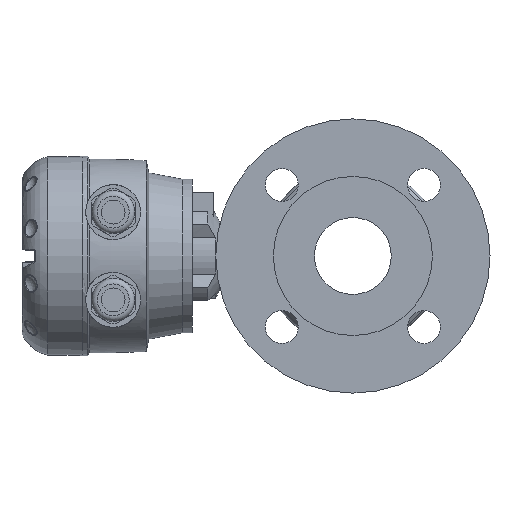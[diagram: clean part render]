
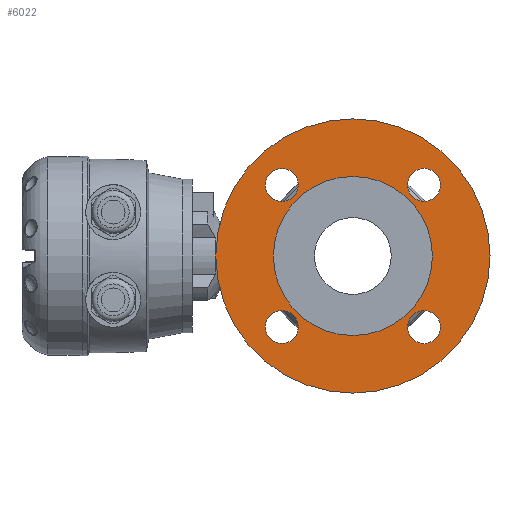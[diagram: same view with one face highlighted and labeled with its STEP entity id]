
A CAD part, left-side view. The second image highlights one B-rep face of the part: STEP entity #6022.
In plain terms, the highlighted planar face has unit normal (-1, 0, 0).
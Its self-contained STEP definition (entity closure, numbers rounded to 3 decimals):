
#455 = EDGE_CURVE ( 'NONE', #16095, #16095, #2376, .T. ) ;
#825 = AXIS2_PLACEMENT_3D ( 'NONE', #6952, #6954, #6955 ) ;
#887 = AXIS2_PLACEMENT_3D ( 'NONE', #13318, #13328, #13329 ) ;
#902 = AXIS2_PLACEMENT_3D ( 'NONE', #13364, #13383, #13384 ) ;
#1146 = AXIS2_PLACEMENT_3D ( 'NONE', #15292, #15294, #15295 ) ;
#1167 = AXIS2_PLACEMENT_3D ( 'NONE', #15195, #15197, #15198 ) ;
#1169 = AXIS2_PLACEMENT_3D ( 'NONE', #15359, #15360, #15361 ) ;
#1170 = AXIS2_PLACEMENT_3D ( 'NONE', #15172, #15182, #15183 ) ;
#1521 = EDGE_LOOP ( 'NONE', ( #8033 ) ) ;
#1595 = EDGE_LOOP ( 'NONE', ( #8052 ) ) ;
#1621 = EDGE_LOOP ( 'NONE', ( #8051 ) ) ;
#1663 = EDGE_LOOP ( 'NONE', ( #8095 ) ) ;
#1666 = EDGE_LOOP ( 'NONE', ( #8100 ) ) ;
#1671 = EDGE_LOOP ( 'NONE', ( #8044 ) ) ;
#2376 = CIRCLE ( 'NONE', #825, 43.5 ) ;
#4508 = CIRCLE ( 'NONE', #887, 9. ) ;
#4525 = FACE_OUTER_BOUND ( 'NONE', #1666, .T. ) ;
#4528 = FACE_BOUND ( 'NONE', #1621, .T. ) ;
#4532 = FACE_BOUND ( 'NONE', #1595, .T. ) ;
#4537 = FACE_BOUND ( 'NONE', #1663, .T. ) ;
#4539 = FACE_BOUND ( 'NONE', #1671, .T. ) ;
#4541 = FACE_BOUND ( 'NONE', #1521, .T. ) ;
#5330 = CIRCLE ( 'NONE', #1170, 9. ) ;
#5342 = CIRCLE ( 'NONE', #1167, 9. ) ;
#5374 = CIRCLE ( 'NONE', #1146, 9. ) ;
#5406 = CIRCLE ( 'NONE', #1169, 75. ) ;
#5638 = EDGE_CURVE ( 'NONE', #16117, #16117, #4508, .T. ) ;
#6022 = ADVANCED_FACE ( 'NONE', ( #4532, #4537, #4539, #4541, #4525, #4528 ), #13380, .T. ) ;
#6952 = CARTESIAN_POINT ( 'NONE',  ( -64.805, -81.517, -10.543 ) ) ;
#6954 = DIRECTION ( 'NONE',  ( 1., 0., 0. ) ) ;
#6955 = DIRECTION ( 'NONE',  ( 0., 0., -1. ) ) ;
#8033 = ORIENTED_EDGE ( 'NONE', *, *, #5638, .F. ) ;
#8044 = ORIENTED_EDGE ( 'NONE', *, *, #14605, .F. ) ;
#8051 = ORIENTED_EDGE ( 'NONE', *, *, #455, .T. ) ;
#8052 = ORIENTED_EDGE ( 'NONE', *, *, #14627, .F. ) ;
#8095 = ORIENTED_EDGE ( 'NONE', *, *, #14598, .F. ) ;
#8100 = ORIENTED_EDGE ( 'NONE', *, *, #14648, .F. ) ;
#13318 = CARTESIAN_POINT ( 'NONE',  ( -64.805, -42.626, -49.434 ) ) ;
#13328 = DIRECTION ( 'NONE',  ( -1., 0., 0. ) ) ;
#13329 = DIRECTION ( 'NONE',  ( 0., 0., 1. ) ) ;
#13364 = CARTESIAN_POINT ( 'NONE',  ( -64.805, -81.517, -10.543 ) ) ;
#13380 = PLANE ( 'NONE',  #902 ) ;
#13383 = DIRECTION ( 'NONE',  ( -1., 0., 0. ) ) ;
#13384 = DIRECTION ( 'NONE',  ( 0., 0., -1. ) ) ;
#14598 = EDGE_CURVE ( 'NONE', #16153, #16153, #5330, .T. ) ;
#14605 = EDGE_CURVE ( 'NONE', #16155, #16155, #5342, .T. ) ;
#14627 = EDGE_CURVE ( 'NONE', #16157, #16157, #5374, .T. ) ;
#14648 = EDGE_CURVE ( 'NONE', #16159, #16159, #5406, .T. ) ;
#15172 = CARTESIAN_POINT ( 'NONE',  ( -64.805, -120.408, 28.348 ) ) ;
#15182 = DIRECTION ( 'NONE',  ( -1., 0., 0. ) ) ;
#15183 = DIRECTION ( 'NONE',  ( 0., 0., 1. ) ) ;
#15195 = CARTESIAN_POINT ( 'NONE',  ( -64.805, -120.408, -49.434 ) ) ;
#15197 = DIRECTION ( 'NONE',  ( -1., 0., 0. ) ) ;
#15198 = DIRECTION ( 'NONE',  ( 0., 0., 1. ) ) ;
#15292 = CARTESIAN_POINT ( 'NONE',  ( -64.805, -42.626, 28.348 ) ) ;
#15294 = DIRECTION ( 'NONE',  ( -1., 0., 0. ) ) ;
#15295 = DIRECTION ( 'NONE',  ( 0., 0., 1. ) ) ;
#15359 = CARTESIAN_POINT ( 'NONE',  ( -64.805, -81.517, -10.543 ) ) ;
#15360 = DIRECTION ( 'NONE',  ( 1., 0., 0. ) ) ;
#15361 = DIRECTION ( 'NONE',  ( 0., 0., -1. ) ) ;
#16095 = VERTEX_POINT ( 'NONE', #16096 ) ;
#16096 = CARTESIAN_POINT ( 'NONE',  ( -64.805, -81.517, -54.043 ) ) ;
#16117 = VERTEX_POINT ( 'NONE', #16118 ) ;
#16118 = CARTESIAN_POINT ( 'NONE',  ( -64.805, -42.626, -40.434 ) ) ;
#16153 = VERTEX_POINT ( 'NONE', #16154 ) ;
#16154 = CARTESIAN_POINT ( 'NONE',  ( -64.805, -120.408, 37.348 ) ) ;
#16155 = VERTEX_POINT ( 'NONE', #16156 ) ;
#16156 = CARTESIAN_POINT ( 'NONE',  ( -64.805, -120.408, -40.434 ) ) ;
#16157 = VERTEX_POINT ( 'NONE', #16158 ) ;
#16158 = CARTESIAN_POINT ( 'NONE',  ( -64.805, -42.626, 37.348 ) ) ;
#16159 = VERTEX_POINT ( 'NONE', #16160 ) ;
#16160 = CARTESIAN_POINT ( 'NONE',  ( -64.805, -81.517, -85.543 ) ) ;
